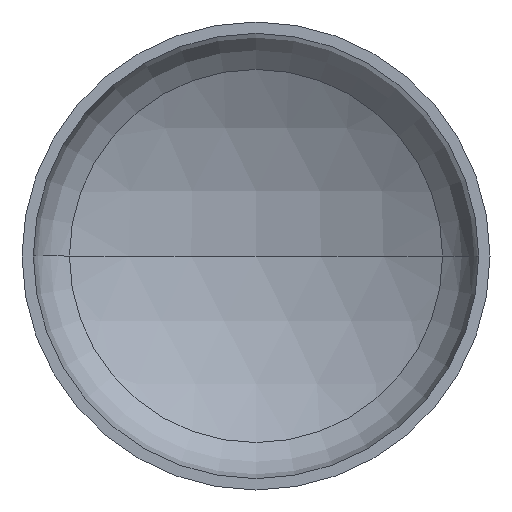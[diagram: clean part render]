
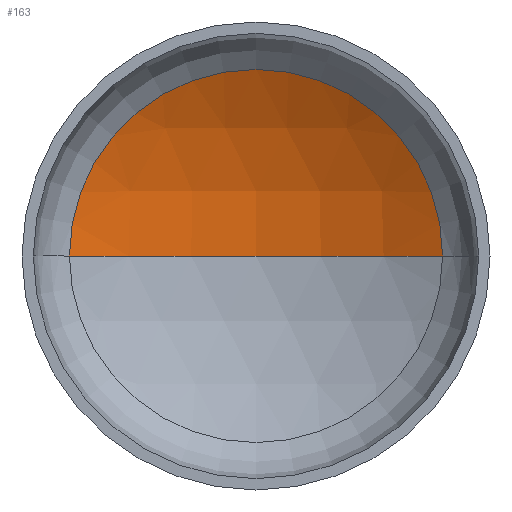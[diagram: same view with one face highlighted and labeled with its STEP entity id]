
A CAD part, front view. The second image highlights one B-rep face of the part: STEP entity #163.
In plain terms, the highlighted spherical face has radius 1120 mm.
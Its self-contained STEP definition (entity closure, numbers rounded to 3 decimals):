
#2 = AXIS2_PLACEMENT_3D ( 'NONE', #387, #236, #408 ) ;
#3 = ORIENTED_EDGE ( 'NONE', *, *, #374, .T. ) ;
#6 = VERTEX_POINT ( 'NONE', #369 ) ;
#9 = AXIS2_PLACEMENT_3D ( 'NONE', #174, #155, #330 ) ;
#21 = FACE_OUTER_BOUND ( 'NONE', #24, .T. ) ;
#24 = EDGE_LOOP ( 'NONE', ( #29, #70, #3 ) ) ;
#29 = ORIENTED_EDGE ( 'NONE', *, *, #349, .F. ) ;
#49 = AXIS2_PLACEMENT_3D ( 'NONE', #210, #186, #196 ) ;
#70 = ORIENTED_EDGE ( 'NONE', *, *, #372, .T. ) ;
#83 = CIRCLE ( 'NONE', #2, 1120. ) ;
#105 = VERTEX_POINT ( 'NONE', #290 ) ;
#144 = VERTEX_POINT ( 'NONE', #293 ) ;
#155 = DIRECTION ( 'NONE',  ( 0., 0., 1. ) ) ;
#163 = ADVANCED_FACE ( 'NONE', ( #21 ), #367, .F. ) ;
#174 = CARTESIAN_POINT ( 'NONE',  ( 0., -674.617, 0. ) ) ;
#184 = DIRECTION ( 'NONE',  ( 1., 0., 0. ) ) ;
#186 = DIRECTION ( 'NONE',  ( 0., 0., -1. ) ) ;
#196 = DIRECTION ( 'NONE',  ( -1., 0., 0. ) ) ;
#210 = CARTESIAN_POINT ( 'NONE',  ( 0., -674.617, 0. ) ) ;
#236 = DIRECTION ( 'NONE',  ( 0., 0., -1. ) ) ;
#247 = CIRCLE ( 'NONE', #273, 558.144 ) ;
#273 = AXIS2_PLACEMENT_3D ( 'NONE', #338, #339, #184 ) ;
#290 = CARTESIAN_POINT ( 'NONE',  ( -558.144, 296.401, 0. ) ) ;
#293 = CARTESIAN_POINT ( 'NONE',  ( 558.144, 296.401, 0. ) ) ;
#330 = DIRECTION ( 'NONE',  ( 1., 0., 0. ) ) ;
#338 = CARTESIAN_POINT ( 'NONE',  ( 0., 296.401, 0. ) ) ;
#339 = DIRECTION ( 'NONE',  ( 0., -1., 0. ) ) ;
#349 = EDGE_CURVE ( 'NONE', #6, #105, #388, .T. ) ;
#367 = SPHERICAL_SURFACE ( 'NONE', #49, 1120. ) ;
#369 = CARTESIAN_POINT ( 'NONE',  ( 0., 445.383, 0. ) ) ;
#372 = EDGE_CURVE ( 'NONE', #6, #144, #83, .T. ) ;
#374 = EDGE_CURVE ( 'NONE', #144, #105, #247, .T. ) ;
#387 = CARTESIAN_POINT ( 'NONE',  ( 0., -674.617, 0. ) ) ;
#388 = CIRCLE ( 'NONE', #9, 1120. ) ;
#408 = DIRECTION ( 'NONE',  ( -1., 0., 0. ) ) ;
